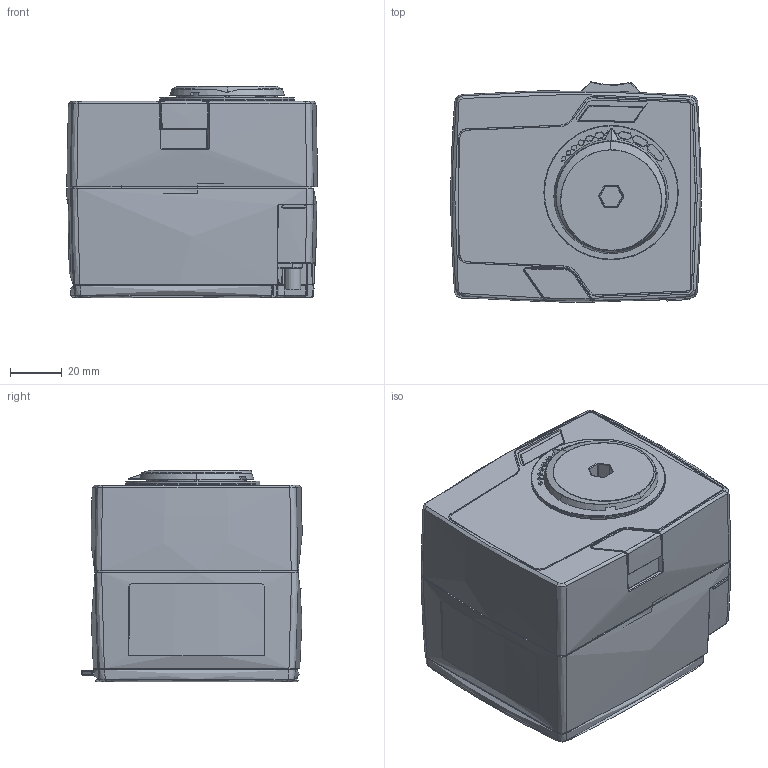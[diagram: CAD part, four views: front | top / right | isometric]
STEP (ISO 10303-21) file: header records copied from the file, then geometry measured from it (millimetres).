
FILE_DESCRIPTION (( 'STEP AP214' ), '1' );
FILE_NAME ('ARM 141.STEP', '2024-01-19T11:26:05', ( '' ), ( '' ), 'SwSTEP 2.0', 'SolidWorks 2022', '' );
FILE_SCHEMA (( 'AUTOMOTIVE_DESIGN' ));
Products named in the file (1): ARM 141
Bounding box: 96.84 x 85.28 x 81.69 mm (x, y, z)
Surface area: 142051.2 mm2 (no closed solid volume)
Topology: 0 solids, 21 shells, 8456 faces, 22724 edges, 13856 vertices
Faces by surface type: bspline 2870, plane 2213, cylinder 1799, cone 846, sphere 399, torus 329
Entity records: 485653 total; most frequent: CARTESIAN_POINT 310147, ORIENTED_EDGE 44376, DIRECTION 24028, EDGE_CURVE 22189, VERTEX_POINT 13852, B_SPLINE_CURVE_WITH_KNOTS 12015, EDGE_LOOP 8659, AXIS2_PLACEMENT_3D 8594
